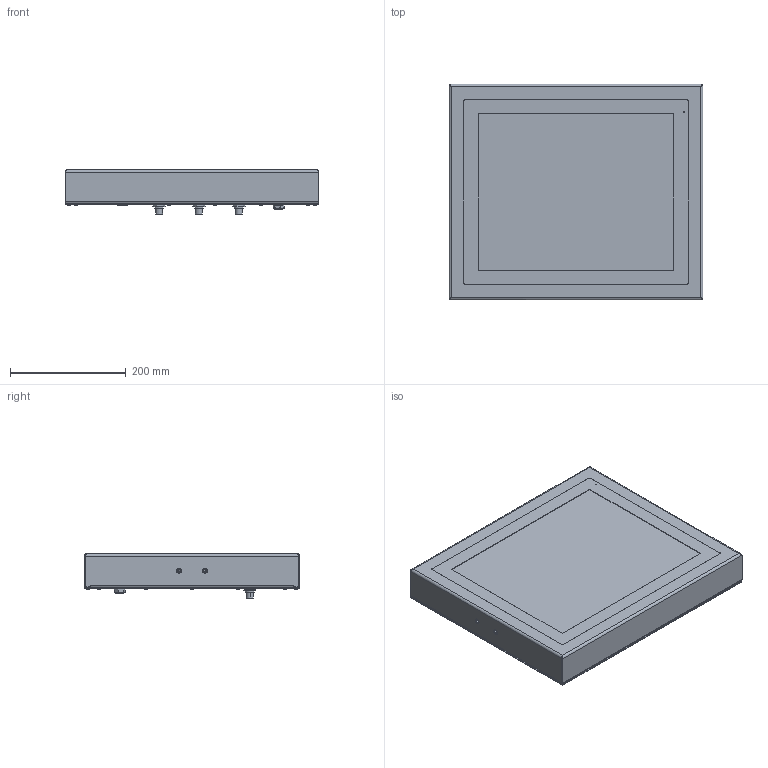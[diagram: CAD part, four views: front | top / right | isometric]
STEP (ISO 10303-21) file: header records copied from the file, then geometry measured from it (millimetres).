
FILE_DESCRIPTION((''),'2;1');
FILE_NAME('SPDP-HY-1700','2025-08-06T15:10:58',('anthony'),(''),'CREO PARAMETRIC BY PTC INC, 2024063','CREO PARAMETRIC BY PTC INC, 2024063','');
FILE_SCHEMA(('CONFIG_CONTROL_DESIGN','SHAPE_APPEARANCE_LAYERS_GROUPS'));
Products named in the file (1): SPDP-HY-1700
Bounding box: 439 x 373 x 76.5 mm (x, y, z)
Volume: 643809.2 mm3; surface area: 892323.2 mm2
Topology: 6 solids, 20 shells, 4228 faces, 11825 edges, 7767 vertices
Faces by surface type: plane 3523, cylinder 444, cone 182, sphere 56, bspline 19, torus 4
Entity records: 165058 total; most frequent: CARTESIAN_POINT 28258, ORIENTED_EDGE 23502, DIRECTION 22086, EDGE_CURVE 11755, VECTOR 9590, LINE 9590, VERTEX_POINT 7767, AXIS2_PLACEMENT_3D 6248
